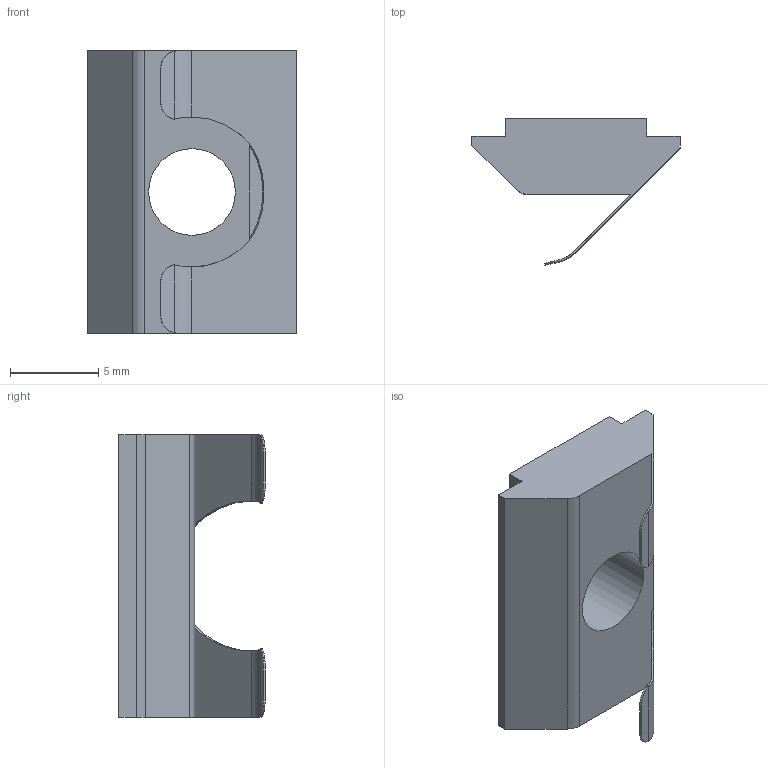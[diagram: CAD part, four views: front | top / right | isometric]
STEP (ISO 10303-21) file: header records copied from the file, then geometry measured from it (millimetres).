
FILE_DESCRIPTION((''),'2;1');
FILE_NAME('E:\catalogue and flyer\Profile catalogue 2015\Accessories JE info\Accessories-JE step file 31MAr16\JE-SN6-8_3030.stp','2016-03-31T16:42:49',('h029'),(''),'Autodesk Inventor 11','Autodesk Inventor 11','');
FILE_SCHEMA(('AUTOMOTIVE_DESIGN { 1 0 10303 214 1 1 1 1 }'));
Length unit declared in the file: millimetre
Products named in the file (1): JE-SN6-8_3030
Bounding box: 11.8 x 8.3 x 16 mm (x, y, z)
Volume: 553.7 mm3; surface area: 675.8 mm2
Topology: 1 solids, 1 shells, 40 faces, 104 edges, 66 vertices
Faces by surface type: plane 26, cylinder 10, bspline 3, cone 1
Entity records: 1258 total; most frequent: CARTESIAN_POINT 270, ORIENTED_EDGE 202, DIRECTION 196, EDGE_CURVE 101, VECTOR 66, LINE 66, AXIS2_PLACEMENT_3D 65, VERTEX_POINT 65
